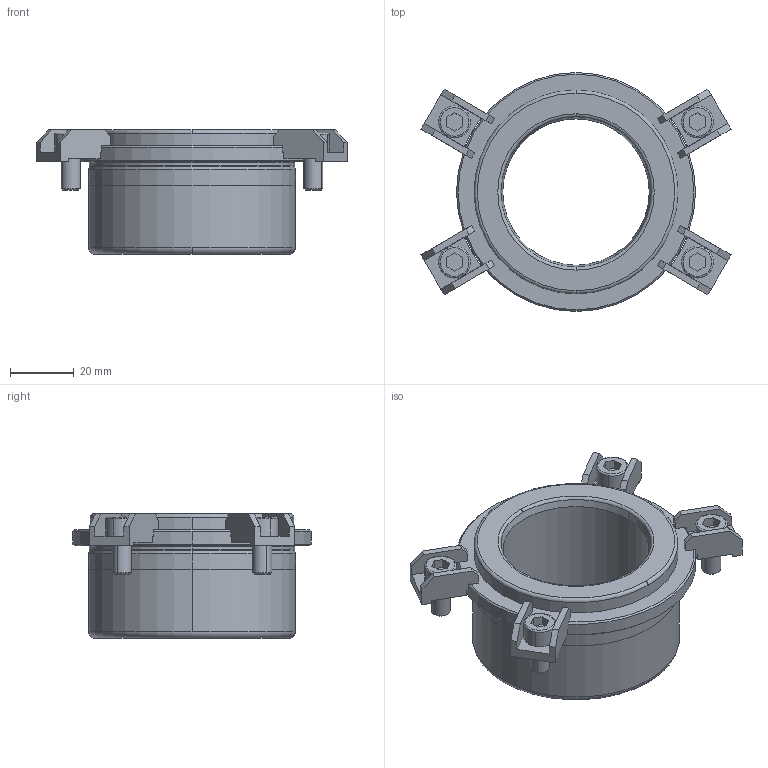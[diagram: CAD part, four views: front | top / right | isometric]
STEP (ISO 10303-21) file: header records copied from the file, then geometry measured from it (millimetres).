
FILE_DESCRIPTION((''),'2;1');
FILE_NAME('B42_038_029.stp','2008-11-04T14:32:42',(''),(''),'Mechanical Desktop 2009','Mechanical Desktop 2009',', , ');
FILE_SCHEMA(('CONFIG_CONTROL_DESIGN'));
Length unit declared in the file: millimetre
Products named in the file (2): Product; blmdl1
Assembly tree (1 placements, depth 2):
  Product
    blmdl1
Bounding box: 97.32 x 75 x 39 mm (x, y, z)
Volume: 75190.9 mm3; surface area: 25334.2 mm2
Topology: 9 solids, 9 shells, 233 faces, 598 edges, 394 vertices
Faces by surface type: plane 137, cylinder 48, cone 20, torus 16, bspline 12
Entity records: 7707 total; most frequent: CARTESIAN_POINT 1755, DIRECTION 1258, ORIENTED_EDGE 1196, EDGE_CURVE 598, AXIS2_PLACEMENT_3D 437, VERTEX_POINT 394, VECTOR 384, LINE 384
